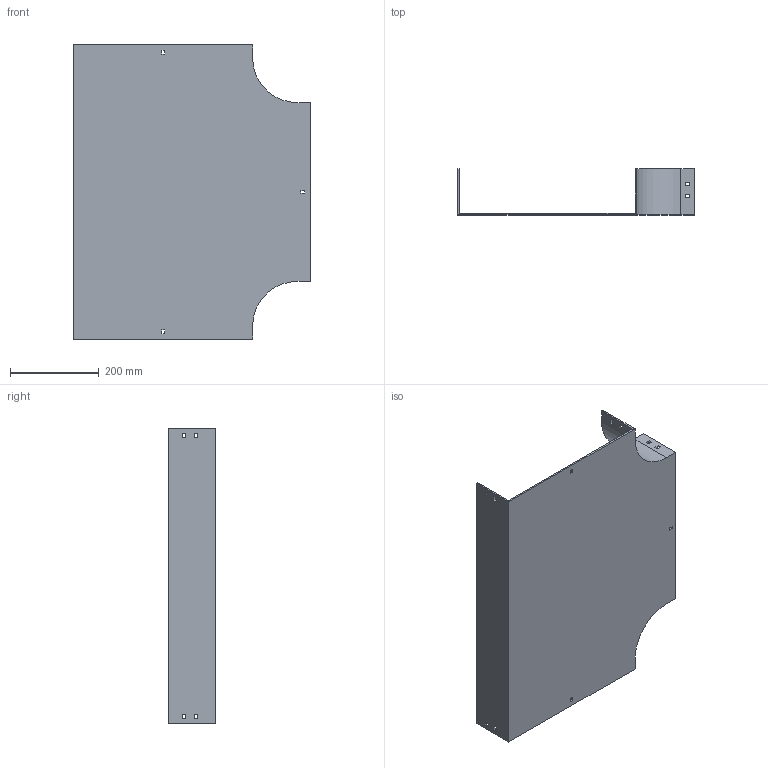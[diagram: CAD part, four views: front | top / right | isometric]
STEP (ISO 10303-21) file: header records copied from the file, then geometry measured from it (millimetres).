
FILE_DESCRIPTION (( 'STEP AP214' ), '1' );
FILE_NAME ('15F1D400.step', '2025-02-21T13:03:49', ( '' ), ( '' ), 'SwSTEP 2.0', 'SolidWorks 2023', '' );
FILE_SCHEMA (( 'AUTOMOTIVE_DESIGN' ));
Length unit declared in the file: millimetre
Products named in the file (1): 15F1D400
Bounding box: 534 x 104 x 664 mm (x, y, z)
Volume: 1522395.2 mm3; surface area: 881889.7 mm2
Topology: 1 solids, 1 shells, 82 faces, 240 edges, 160 vertices
Faces by surface type: plane 78, cylinder 4
Entity records: 2755 total; most frequent: CARTESIAN_POINT 483, ORIENTED_EDGE 480, DIRECTION 414, EDGE_CURVE 240, LINE 232, VECTOR 232, VERTEX_POINT 160, EDGE_LOOP 112
